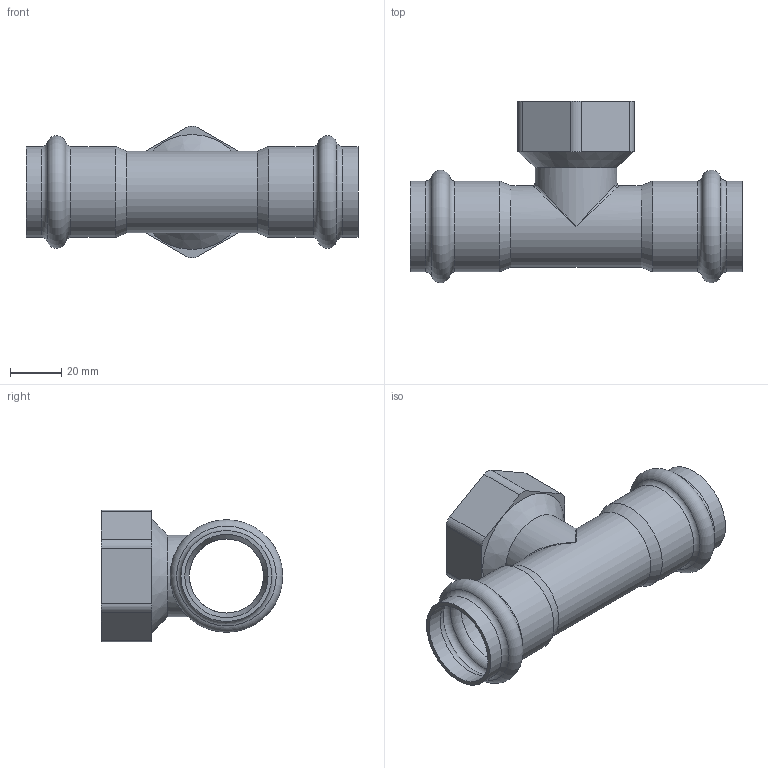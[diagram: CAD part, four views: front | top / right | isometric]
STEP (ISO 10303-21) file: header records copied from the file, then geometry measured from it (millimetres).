
FILE_DESCRIPTION(/* description */ (''),/* implementation_level */ '2;1');
FILE_NAME(/* name */ '51267030301.stp',/* time_stamp */ '2020-06-22T14:53:32+08:00',/* author */ (''),/* organization */ (''),/* preprocessor_version */ 'ST-DEVELOPER v11',/* originating_system */ 'SIEMENS PLM Software NX 7.5',/* authorisation */ '');
FILE_SCHEMA (('CONFIG_CONTROL_DESIGN'));
Length unit declared in the file: millimetre
Products named in the file (1): Admi4F60b496
Bounding box: 130 x 71.05 x 51.65 mm (x, y, z)
Volume: 35974.2 mm3; surface area: 38410.9 mm2
Topology: 1 solids, 1 shells, 52 faces, 120 edges, 66 vertices
Faces by surface type: cylinder 19, plane 12, torus 12, cone 7, bspline 2
Full cylindrical faces by diameter (mm): 29 x1, 29.6 x1, 32 x2, 32.6 x4, 35.6 x4, 38.95 x1
Entity records: 1462 total; most frequent: CARTESIAN_POINT 345, DIRECTION 232, ORIENTED_EDGE 160, AXIS2_PLACEMENT_3D 103, EDGE_LOOP 90, EDGE_CURVE 80, FACE_BOUND 74, VERTEX_POINT 64
